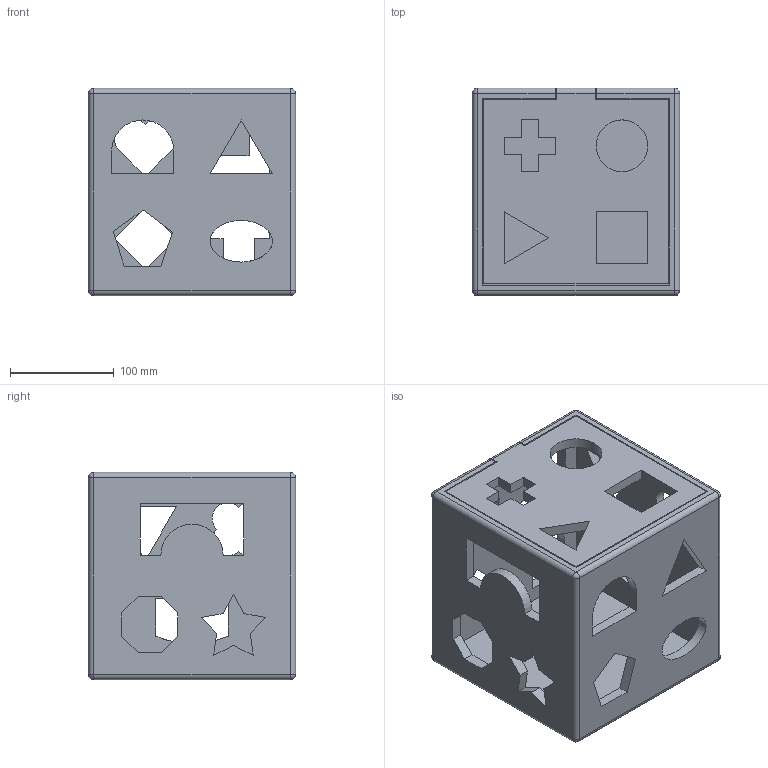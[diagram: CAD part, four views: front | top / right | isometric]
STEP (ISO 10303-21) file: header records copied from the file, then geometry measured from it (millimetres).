
FILE_DESCRIPTION(/* description */ (''),/* implementation_level */ '2;1');
FILE_NAME(/* name */ 'Juguete_nios_Der.stp',/* time_stamp */ '2026-06-15T21:38:13+02:00',/* author */ ('algob'),/* organization */ (''),/* preprocessor_version */ 'ST-DEVELOPER v19.2',/* originating_system */ 'Autodesk Inventor 2024',/* authorisation */ '');
FILE_SCHEMA (('AUTOMOTIVE_DESIGN { 1 0 10303 214 3 1 1 }'));
Length unit declared in the file: millimetre
Products named in the file (1): Juguete_niños_Der
Bounding box: 200 x 200 x 200 mm (x, y, z)
Volume: 1766549.6 mm3; surface area: 401564.9 mm2
Topology: 2 solids, 2 shells, 134 faces, 366 edges, 236 vertices
Faces by surface type: plane 100, cylinder 24, sphere 8, bspline 2
Full cylindrical faces by diameter (mm): 50 x1
Entity records: 4298 total; most frequent: CARTESIAN_POINT 759, ORIENTED_EDGE 732, DIRECTION 684, EDGE_CURVE 366, LINE 314, VECTOR 314, VERTEX_POINT 236, AXIS2_PLACEMENT_3D 185
